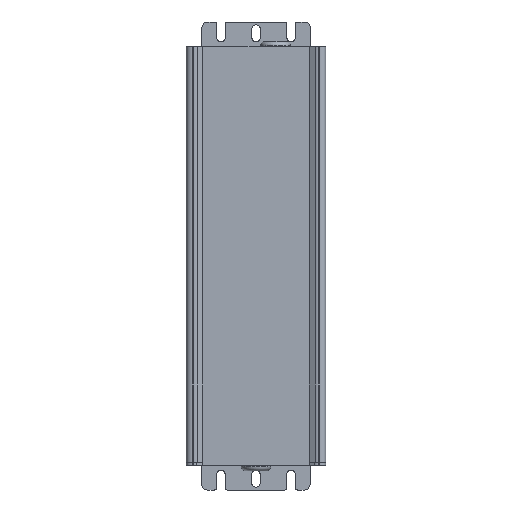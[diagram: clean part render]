
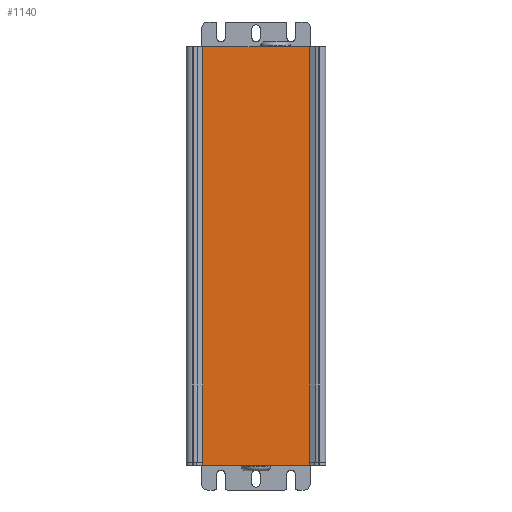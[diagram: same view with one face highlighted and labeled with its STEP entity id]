
A CAD part, left-side view. The second image highlights one B-rep face of the part: STEP entity #1140.
In plain terms, the highlighted planar face has unit normal (-1, 0, 0).
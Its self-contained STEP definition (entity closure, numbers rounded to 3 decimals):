
#430=CARTESIAN_POINT('',(1771.873,-2450.564,
9.5));
#440=DIRECTION('',(-1.,0.,0.));
#450=DIRECTION('',(0.,1.,0.));
#460=AXIS2_PLACEMENT_3D('',#430,#440,#450);
#470=PLANE('',#460);
#480=CARTESIAN_POINT('',(1771.873,-2450.514,
3.24));
#490=DIRECTION('',(0.,0.,1.));
#500=VECTOR('',#490,1.);
#510=LINE('',#480,#500);
#520=CARTESIAN_POINT('',(1771.873,-2450.514,
3.4));
#530=VERTEX_POINT('',#520);
#540=CARTESIAN_POINT('',(1771.873,-2450.514,
5.));
#550=VERTEX_POINT('',#540);
#560=EDGE_CURVE('',#530,#550,#510,.T.);
#570=ORIENTED_EDGE('',*,*,#560,.T.);
#580=CARTESIAN_POINT('',(1771.873,-4401.798,
3.4));
#590=DIRECTION('',(0.,1.,0.));
#600=VECTOR('',#590,1.);
#610=LINE('',#580,#600);
#620=CARTESIAN_POINT('',(1771.873,-2398.514,
3.4));
#630=VERTEX_POINT('',#620);
#640=EDGE_CURVE('',#530,#630,#610,.T.);
#650=ORIENTED_EDGE('',*,*,#640,.F.);
#660=CARTESIAN_POINT('',(1771.873,-2398.514,
3.24));
#670=DIRECTION('',(0.,0.,1.));
#680=VECTOR('',#670,1.);
#690=LINE('',#660,#680);
#700=CARTESIAN_POINT('',(1771.873,-2398.514,
5.));
#710=VERTEX_POINT('',#700);
#720=EDGE_CURVE('',#630,#710,#690,.T.);
#730=ORIENTED_EDGE('',*,*,#720,.F.);
#740=CARTESIAN_POINT('',(1771.873,-0.4,
5.));
#750=DIRECTION('',(0.,1.,0.));
#760=VECTOR('',#750,1.);
#770=LINE('',#740,#760);
#780=CARTESIAN_POINT('',(1771.873,-2398.564,
5.));
#790=VERTEX_POINT('',#780);
#800=EDGE_CURVE('',#790,#710,#770,.T.);
#810=ORIENTED_EDGE('',*,*,#800,.T.);
#820=CARTESIAN_POINT('',(1771.873,-2398.564,
9.5));
#830=DIRECTION('',(0.,0.,1.));
#840=VECTOR('',#830,1.);
#850=LINE('',#820,#840);
#860=CARTESIAN_POINT('',(1771.873,-2398.564,
207.4));
#870=VERTEX_POINT('',#860);
#880=EDGE_CURVE('',#790,#870,#850,.T.);
#890=ORIENTED_EDGE('',*,*,#880,.F.);
#900=CARTESIAN_POINT('',(1771.873,-447.279,
207.4));
#910=DIRECTION('',(0.,-1.,0.));
#920=VECTOR('',#910,1.);
#930=LINE('',#900,#920);
#940=CARTESIAN_POINT('',(1771.873,-2450.564,
207.4));
#950=VERTEX_POINT('',#940);
#960=EDGE_CURVE('',#870,#950,#930,.T.);
#970=ORIENTED_EDGE('',*,*,#960,.F.);
#980=CARTESIAN_POINT('',(1771.873,-2450.564,
9.5));
#990=DIRECTION('',(0.,0.,1.));
#1000=VECTOR('',#990,1.);
#1010=LINE('',#980,#1000);
#1020=CARTESIAN_POINT('',(1771.873,-2450.564,
5.));
#1030=VERTEX_POINT('',#1020);
#1040=EDGE_CURVE('',#1030,#950,#1010,.T.);
#1050=ORIENTED_EDGE('',*,*,#1040,.T.);
#1060=CARTESIAN_POINT('',(1771.873,-0.4,
5.));
#1070=DIRECTION('',(0.,1.,-0.));
#1080=VECTOR('',#1070,1.);
#1090=LINE('',#1060,#1080);
#1100=EDGE_CURVE('',#1030,#550,#1090,.T.);
#1110=ORIENTED_EDGE('',*,*,#1100,.F.);
#1120=EDGE_LOOP('',(#1110,#1050,#970,#890,#810,#730,#650,#570));
#1130=FACE_OUTER_BOUND('',#1120,.T.);
#1140=ADVANCED_FACE('',(#1130),#470,.T.);
